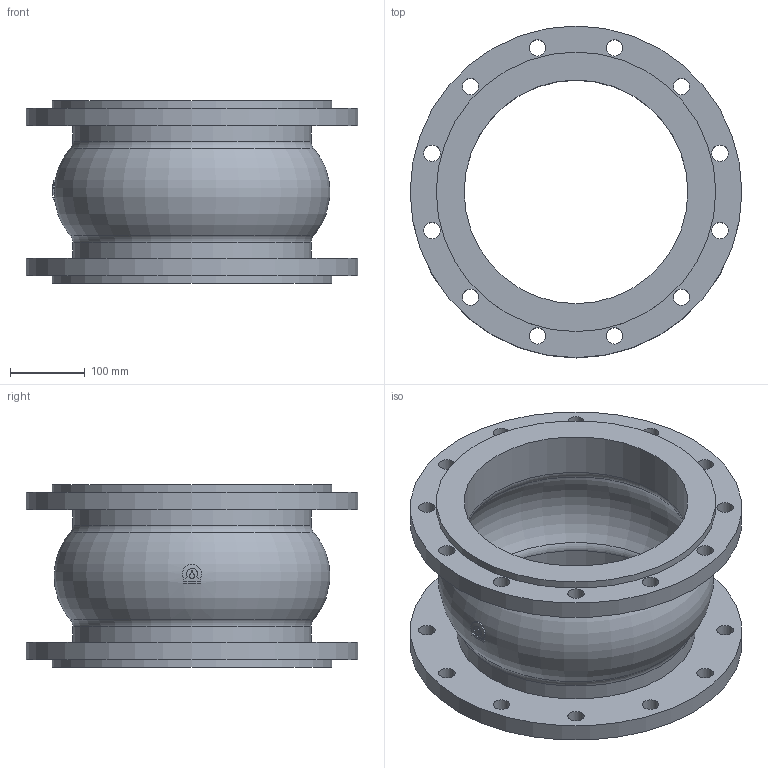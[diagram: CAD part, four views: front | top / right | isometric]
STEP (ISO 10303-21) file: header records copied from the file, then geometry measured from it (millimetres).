
FILE_DESCRIPTION(('STEP AP203'), '1');
FILE_NAME('Êîìïåíñàòîð KMS DN300 PN10', '', ('UNSPECIFIED'), ('UNSPECIFIED'), 'ASCON STEP Converter 1.6', 'ASCON Math Kernel', '');
FILE_SCHEMA(('CONFIG_CONTROL_DESIGN'));
Length unit declared in the file: millimetre
Bounding box: 445 x 445 x 245 mm (x, y, z)
Volume: 6570879.2 mm3; surface area: 891785.7 mm2
Topology: 1 solids, 1 shells, 61 faces, 148 edges, 96 vertices
Faces by surface type: cylinder 39, plane 13, torus 9
Full cylindrical faces by diameter (mm): 22 x24, 300 x2, 320 x2, 375 x2, 445 x2
Entity records: 3155 total; most frequent: CARTESIAN_POINT 1222, DIRECTION 286, ORIENTED_EDGE 220, EDGE_LOOP 156, AXIS2_PLACEMENT_3D 136, EDGE_CURVE 110, VERTEX_POINT 96, FACE_BOUND 80
